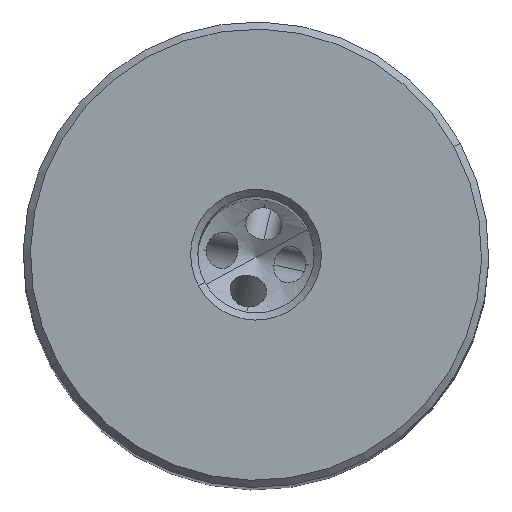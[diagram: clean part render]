
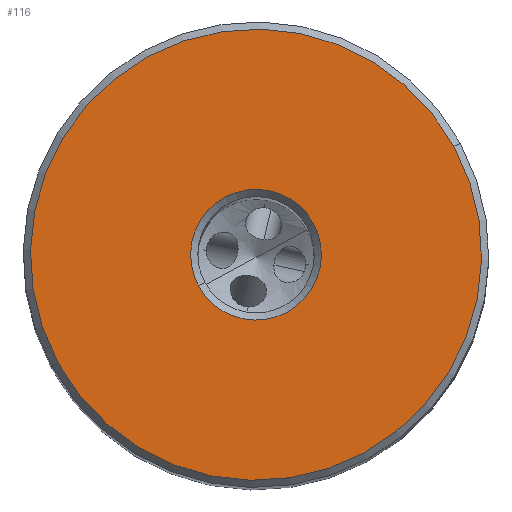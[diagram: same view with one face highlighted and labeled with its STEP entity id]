
A CAD part, top view. The second image highlights one B-rep face of the part: STEP entity #116.
In plain terms, the highlighted planar face has unit normal (0, 0, 1).
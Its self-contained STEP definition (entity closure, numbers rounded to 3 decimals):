
#62=AXIS2_PLACEMENT_3D('Circle Axis2P3D',#60,#61,$) ;
#79=AXIS2_PLACEMENT_3D('Circle Axis2P3D',#77,#78,$) ;
#92=AXIS2_PLACEMENT_3D('Plane Axis2P3D',#89,#90,#91) ;
#96=AXIS2_PLACEMENT_3D('Circle Axis2P3D',#94,#95,$) ;
#105=AXIS2_PLACEMENT_3D('Circle Axis2P3D',#103,#104,$) ;
#41=CARTESIAN_POINT('Vertex',(3.945,2.155,0.)) ;
#57=CARTESIAN_POINT('Vertex',(-3.945,-2.155,0.)) ;
#60=CARTESIAN_POINT('Axis2P3D Location',(0.,0.,0.)) ;
#77=CARTESIAN_POINT('Axis2P3D Location',(0.,0.,0.)) ;
#89=CARTESIAN_POINT('Axis2P3D Location',(-15.505,0.,0.)) ;
#94=CARTESIAN_POINT('Axis2P3D Location',(0.,0.,0.)) ;
#98=CARTESIAN_POINT('Vertex',(13.607,7.434,0.)) ;
#100=CARTESIAN_POINT('Vertex',(-13.607,-7.434,0.)) ;
#103=CARTESIAN_POINT('Axis2P3D Location',(0.,0.,0.)) ;
#61=DIRECTION('Axis2P3D Direction',(0.,0.,1.)) ;
#78=DIRECTION('Axis2P3D Direction',(0.,0.,1.)) ;
#90=DIRECTION('Axis2P3D Direction',(0.,0.,1.)) ;
#91=DIRECTION('Axis2P3D XDirection',(1.,0.,0.)) ;
#95=DIRECTION('Axis2P3D Direction',(0.,0.,1.)) ;
#104=DIRECTION('Axis2P3D Direction',(0.,0.,1.)) ;
#109=ORIENTED_EDGE('',*,*,#102,.T.) ;
#110=ORIENTED_EDGE('',*,*,#107,.T.) ;
#113=ORIENTED_EDGE('',*,*,#64,.F.) ;
#114=ORIENTED_EDGE('',*,*,#81,.F.) ;
#115=FACE_BOUND('',#112,.T.) ;
#116=ADVANCED_FACE('NO_CUT',(#111,#115),#93,.T.) ;
#63=CIRCLE('generated circle',#62,4.495) ;
#80=CIRCLE('generated circle',#79,4.495) ;
#97=CIRCLE('generated circle',#96,15.505) ;
#106=CIRCLE('generated circle',#105,15.505) ;
#64=EDGE_CURVE('',#58,#42,#63,.T.) ;
#81=EDGE_CURVE('',#42,#58,#80,.T.) ;
#102=EDGE_CURVE('',#99,#101,#97,.T.) ;
#107=EDGE_CURVE('',#101,#99,#106,.T.) ;
#108=EDGE_LOOP('',(#109,#110)) ;
#112=EDGE_LOOP('',(#113,#114)) ;
#111=FACE_OUTER_BOUND('',#108,.T.) ;
#93=PLANE('',#92) ;
#42=VERTEX_POINT('',#41) ;
#58=VERTEX_POINT('',#57) ;
#99=VERTEX_POINT('',#98) ;
#101=VERTEX_POINT('',#100) ;
